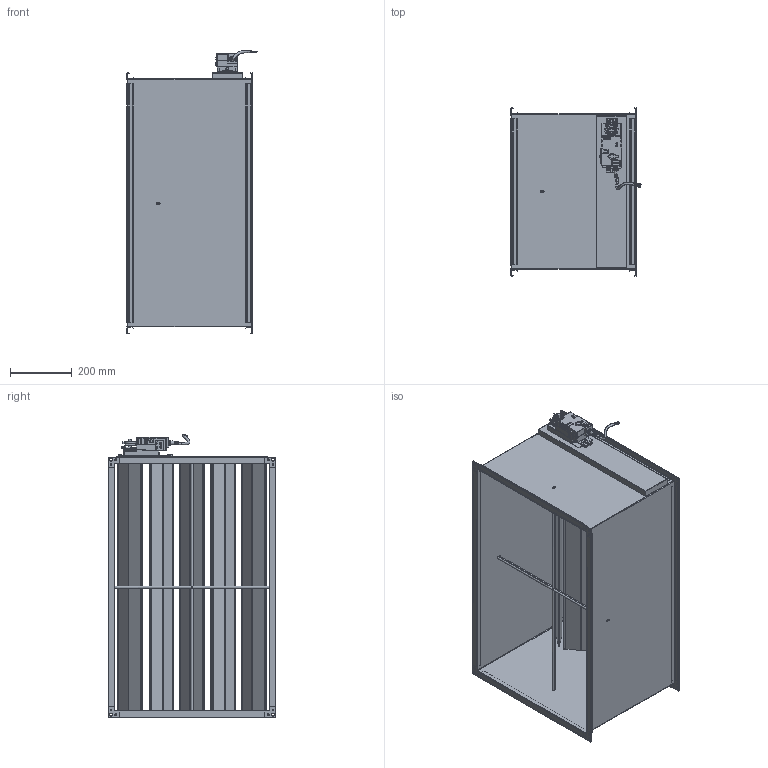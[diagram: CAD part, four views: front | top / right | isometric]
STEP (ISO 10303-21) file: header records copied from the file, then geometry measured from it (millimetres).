
FILE_DESCRIPTION (( 'STEP AP214' ), '1' );
FILE_NAME ('VAV-S800500.STEP', '2025-05-08T11:50:49', ( '' ), ( '' ), 'SwSTEP 2.0', 'SolidWorks 2025', '' );
FILE_SCHEMA (( 'AUTOMOTIVE_DESIGN' ));
Length unit declared in the file: millimetre
Products named in the file (1): VAV-S800500
Bounding box: 419.78 x 541 x 913.68 mm (x, y, z)
Surface area: 4085380 mm2 (no closed solid volume)
Topology: 0 solids, 48 shells, 2096 faces, 5471 edges, 3479 vertices
Faces by surface type: plane 1539, cylinder 504, bspline 24, sphere 18, cone 10, torus 1
Full cylindrical faces by diameter (mm): 1 x4, 6 x17, 8 x1, 9 x8, 11 x1, 20 x1, 21 x2
Entity records: 91672 total; most frequent: CARTESIAN_POINT 41346, ORIENTED_EDGE 10721, DIRECTION 6912, EDGE_CURVE 5384, VERTEX_POINT 3451, B_SPLINE_CURVE_WITH_KNOTS 3154, AXIS2_PLACEMENT_3D 2633, EDGE_LOOP 2302
